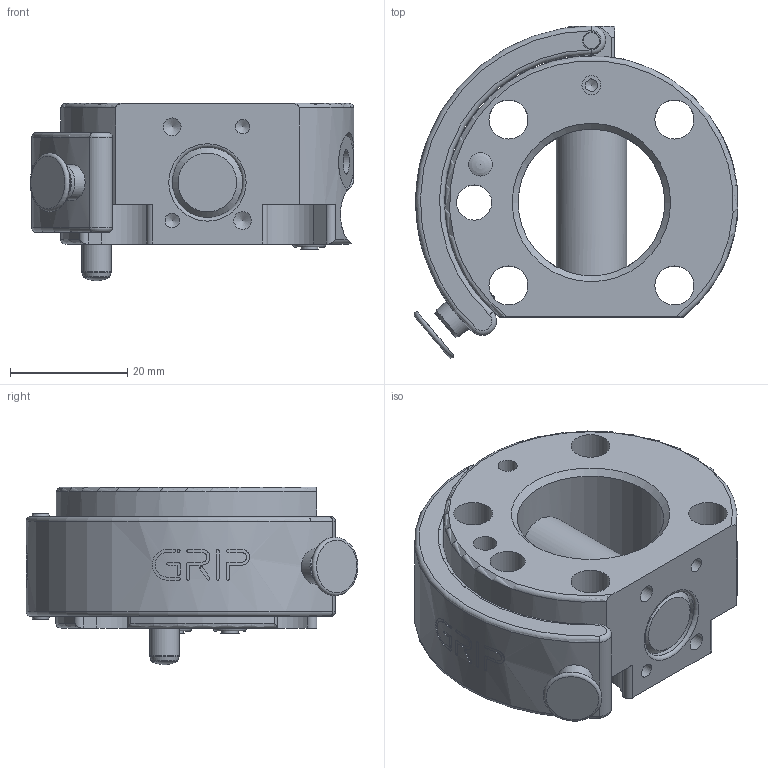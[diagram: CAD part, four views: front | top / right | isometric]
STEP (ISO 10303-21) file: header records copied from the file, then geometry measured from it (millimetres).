
FILE_DESCRIPTION(/* description */ (''),/* implementation_level */ '2;1');
FILE_NAME(/* name */ 'G-HWS050-O-K040_Rev.1.01.stp',/* time_stamp */ '2025-03-18T15:08:23+01:00',/* author */ ('ysplieth'),/* organization */ (''),/* preprocessor_version */ 'ST-DEVELOPER v20',/* originating_system */ 'Autodesk Inventor 2024',/* authorisation */ '');
FILE_SCHEMA (('AUTOMOTIVE_DESIGN { 1 0 10303 214 3 1 1 }'));
Length unit declared in the file: millimetre
Products named in the file (1): Bauteil5
Bounding box: 55.21 x 56.58 x 30.25 mm (x, y, z)
Volume: 34342.2 mm3; surface area: 15130 mm2
Topology: 1 solids, 5 shells, 397 faces, 1042 edges, 691 vertices
Faces by surface type: plane 159, bspline 94, cylinder 91, cone 33, torus 18, sphere 2
Full cylindrical faces by diameter (mm): 0.504 x1, 2.459 x2, 2.8 x2, 3 x2, 3.242 x1, 3.5 x1, 4 x2, 4.1 x1, 4.134 x2, 5 x1, 6 x2, 6.5 x4, 6.647 x4, 12 x2, 25 x1
Entity records: 14988 total; most frequent: CARTESIAN_POINT 5571, ORIENTED_EDGE 2066, DIRECTION 1544, EDGE_CURVE 1033, VERTEX_POINT 691, AXIS2_PLACEMENT_3D 522, LINE 500, VECTOR 500
